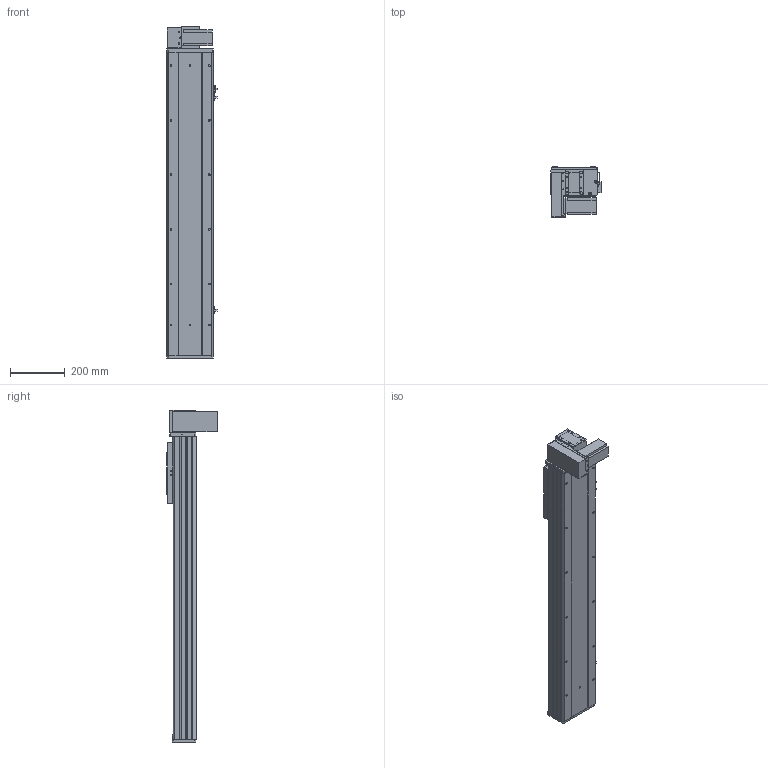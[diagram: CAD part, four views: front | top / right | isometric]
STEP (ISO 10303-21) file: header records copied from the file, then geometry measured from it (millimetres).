
FILE_DESCRIPTION (( 'STEP AP203' ), '1' );
FILE_NAME ('Y170CB-D105-S800-BM-P400W.STEP', '2020-02-20T06:21:05', ( '微软用户' ), ( '微软中国' ), 'SwSTEP 2.0', 'SolidWorks 2017', '' );
FILE_SCHEMA (( 'CONFIG_CONTROL_DESIGN' ));
Length unit declared in the file: millimetre
Products named in the file (18): Y100-135俋离換覜ん--; 70CB-掛极-; Y170CB-陔俋离換覜結え---; --70CB --喘謫眊楊擘啣-; Y1埴倛裔; 70CB-耜裔啣-; 17B-耜蚾蟀諉啣----; 70C--詩湍揤踡え-; 00B-俋欶BM--163; 70CB--耜裔; 70B喘謫眊----; B-源倛裔啣; 70C-雄赽釱-奻-; Y170CB-D105-S800-BM-P400W; 0C--雄赽釱俋欶-170; 0B-萇儂楊擘啣; 70CB-詩湍--; san松下电机400不带刹车----
Assembly tree (21 placements, depth 2):
  Y170CB-D105-S800-BM-P400W
    B-源倛裔啣
    0B-萇儂楊擘啣
    san松下电机400不带刹车----
    70CB-掛极-
    --70CB --喘謫眊楊擘啣-
    70CB-耜裔啣-  x2
    70C--詩湍揤踡え-  x2
    70CB--耜裔
    70C-雄赽釱-奻-
    0C--雄赽釱俋欶-170
    70CB-詩湍--
    Y100-135俋离換覜ん--  x3
    Y170CB-陔俋离換覜結え---
    Y1埴倛裔
    17B-耜蚾蟀諉啣----
    00B-俋欶BM--163
    70B喘謫眊----
Bounding box: 183.5 x 184 x 1216 mm (x, y, z)
Volume: 5752100 mm3; surface area: 2057046.9 mm2
Topology: 21 solids, 21 shells, 999 faces, 2669 edges, 1770 vertices
Faces by surface type: cylinder 513, plane 462, cone 24
Entity records: 31744 total; most frequent: CARTESIAN_POINT 5796, DIRECTION 5162, ORIENTED_EDGE 4820, EDGE_CURVE 2410, AXIS2_PLACEMENT_3D 1888, VERTEX_POINT 1600, VECTOR 1386, LINE 1386
